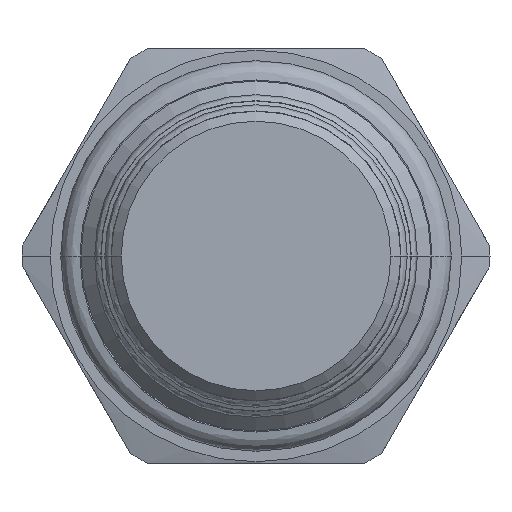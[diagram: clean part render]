
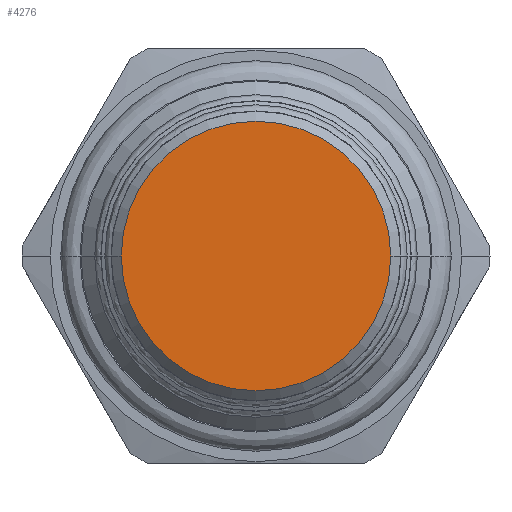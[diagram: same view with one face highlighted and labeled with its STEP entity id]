
A CAD part, front view. The second image highlights one B-rep face of the part: STEP entity #4276.
In plain terms, the highlighted planar face has unit normal (0, -1, 0).
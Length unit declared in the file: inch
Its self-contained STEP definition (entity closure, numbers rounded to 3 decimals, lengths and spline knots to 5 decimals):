
#1295=CARTESIAN_POINT('',(0.,-2.85867,0.));
#1296=DIRECTION('',(0.,1.,0.));
#1297=DIRECTION('',(-1.,0.,0.));
#1298=AXIS2_PLACEMENT_3D('',#1295,#1296,#1297);
#1305=CARTESIAN_POINT('',(0.,-2.85867,0.));
#1306=DIRECTION('',(0.,1.,0.));
#1307=DIRECTION('',(1.,0.,0.));
#1308=AXIS2_PLACEMENT_3D('',#1305,#1306,#1307);
#2245=CARTESIAN_POINT('',(-0.406,-2.85867,0.));
#2246=CARTESIAN_POINT('',(0.406,-2.85867,0.));
#2247=VERTEX_POINT('',#2245);
#2248=VERTEX_POINT('',#2246);
#4266=CARTESIAN_POINT('',(0.,-2.85867,0.));
#4267=DIRECTION('',(0.,-1.,0.));
#4268=DIRECTION('',(0.,0.,-1.));
#4269=AXIS2_PLACEMENT_3D('',#4266,#4267,#4268);
#4270=PLANE('',#4269);
#4272=ORIENTED_EDGE('',*,*,#4271,.T.);
#4273=ORIENTED_EDGE('',*,*,#4256,.T.);
#4274=EDGE_LOOP('',(#4272,#4273));
#4275=FACE_OUTER_BOUND('',#4274,.F.);
#4276=ADVANCED_FACE('',(#4275),#4270,.T.);
#1299=CIRCLE('',#1298,0.406);
#1309=CIRCLE('',#1308,0.406);
#4256=EDGE_CURVE('',#2247,#2248,#1299,.T.);
#4271=EDGE_CURVE('',#2248,#2247,#1309,.T.);
